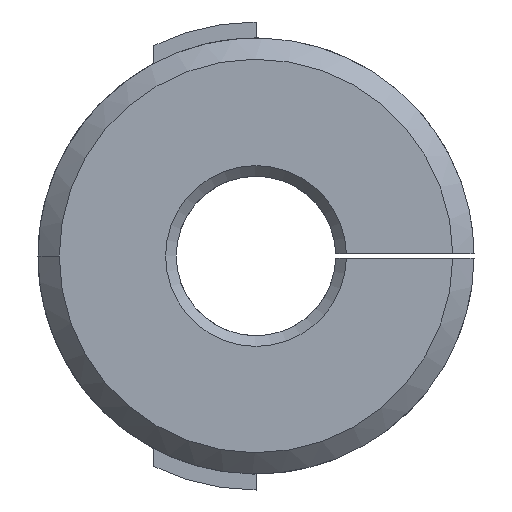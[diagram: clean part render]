
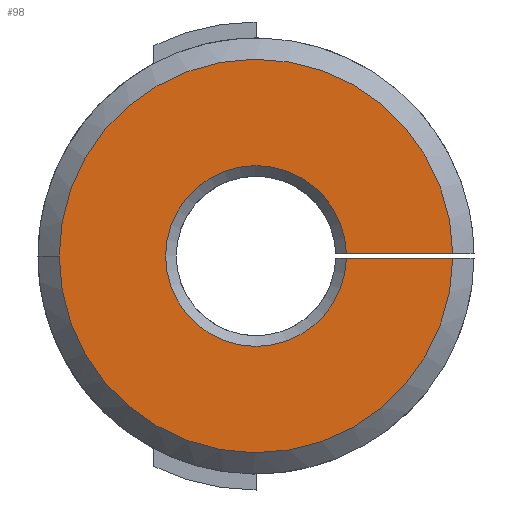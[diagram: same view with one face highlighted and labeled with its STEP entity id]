
A CAD part, front view. The second image highlights one B-rep face of the part: STEP entity #98.
In plain terms, the highlighted planar face has unit normal (0, -1, 0).
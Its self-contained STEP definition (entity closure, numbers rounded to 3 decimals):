
#13 = EDGE_LOOP ( 'NONE', ( #489, #1012, #741, #666, #32 ) ) ;
#17 = VERTEX_POINT ( 'NONE', #811 ) ;
#32 = ORIENTED_EDGE ( 'NONE', *, *, #1318, .T. ) ;
#92 = VERTEX_POINT ( 'NONE', #1330 ) ;
#98 = ADVANCED_FACE ( 'NONE', ( #1347 ), #1324, .T. ) ;
#173 = VERTEX_POINT ( 'NONE', #205 ) ;
#205 = CARTESIAN_POINT ( 'NONE',  ( 9.25, 0., -0.1 ) ) ;
#224 = AXIS2_PLACEMENT_3D ( 'NONE', #1434, #1456, #705 ) ;
#229 = DIRECTION ( 'NONE',  ( 0., -1., 0. ) ) ;
#296 = CARTESIAN_POINT ( 'NONE',  ( 12., 0., 0.1 ) ) ;
#422 = DIRECTION ( 'NONE',  ( 1., 0., 0. ) ) ;
#489 = ORIENTED_EDGE ( 'NONE', *, *, #923, .T. ) ;
#508 = AXIS2_PLACEMENT_3D ( 'NONE', #1509, #229, #865 ) ;
#539 = AXIS2_PLACEMENT_3D ( 'NONE', #1514, #880, #756 ) ;
#666 = ORIENTED_EDGE ( 'NONE', *, *, #830, .T. ) ;
#693 = VECTOR ( 'NONE', #422, 1000. ) ;
#705 = DIRECTION ( 'NONE',  ( 1., 0., 0. ) ) ;
#741 = ORIENTED_EDGE ( 'NONE', *, *, #1159, .T. ) ;
#756 = DIRECTION ( 'NONE',  ( 1., 0., 0. ) ) ;
#775 = DIRECTION ( 'NONE',  ( -1., 0., 0. ) ) ;
#811 = CARTESIAN_POINT ( 'NONE',  ( 4.249, 0., 0.1 ) ) ;
#830 = EDGE_CURVE ( 'NONE', #173, #888, #850, .T. ) ;
#850 = LINE ( 'NONE', #1531, #1243 ) ;
#865 = DIRECTION ( 'NONE',  ( 1., 0., 0. ) ) ;
#880 = DIRECTION ( 'NONE',  ( 0., 1., 0. ) ) ;
#888 = VERTEX_POINT ( 'NONE', #1393 ) ;
#923 = EDGE_CURVE ( 'NONE', #17, #92, #1286, .T. ) ;
#943 = CIRCLE ( 'NONE', #539, 4.25 ) ;
#992 = VERTEX_POINT ( 'NONE', #1557 ) ;
#1012 = ORIENTED_EDGE ( 'NONE', *, *, #1629, .T. ) ;
#1059 = CIRCLE ( 'NONE', #224, 9.25 ) ;
#1159 = EDGE_CURVE ( 'NONE', #992, #173, #1262, .T. ) ;
#1193 = CARTESIAN_POINT ( 'NONE',  ( 0., 0., 0. ) ) ;
#1243 = VECTOR ( 'NONE', #775, 1000. ) ;
#1262 = CIRCLE ( 'NONE', #508, 9.25 ) ;
#1286 = LINE ( 'NONE', #296, #693 ) ;
#1318 = EDGE_CURVE ( 'NONE', #888, #17, #943, .T. ) ;
#1324 = PLANE ( 'NONE',  #1363 ) ;
#1330 = CARTESIAN_POINT ( 'NONE',  ( 9.25, 0., 0.1 ) ) ;
#1347 = FACE_OUTER_BOUND ( 'NONE', #13, .T. ) ;
#1363 = AXIS2_PLACEMENT_3D ( 'NONE', #1193, #1454, #1573 ) ;
#1393 = CARTESIAN_POINT ( 'NONE',  ( 4.249, 0., -0.1 ) ) ;
#1434 = CARTESIAN_POINT ( 'NONE',  ( 0., 0., 0. ) ) ;
#1454 = DIRECTION ( 'NONE',  ( 0., -1., 0. ) ) ;
#1456 = DIRECTION ( 'NONE',  ( 0., -1., 0. ) ) ;
#1509 = CARTESIAN_POINT ( 'NONE',  ( 0., 0., 0. ) ) ;
#1514 = CARTESIAN_POINT ( 'NONE',  ( 0., 0., 0. ) ) ;
#1531 = CARTESIAN_POINT ( 'NONE',  ( 1., 0., -0.1 ) ) ;
#1557 = CARTESIAN_POINT ( 'NONE',  ( -9.25, 0., 0. ) ) ;
#1573 = DIRECTION ( 'NONE',  ( 1., 0., 0. ) ) ;
#1629 = EDGE_CURVE ( 'NONE', #92, #992, #1059, .T. ) ;
